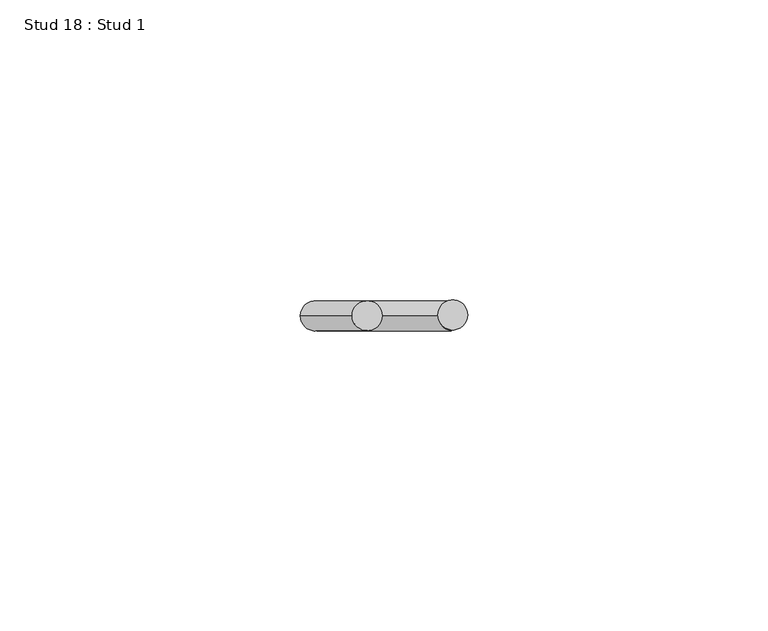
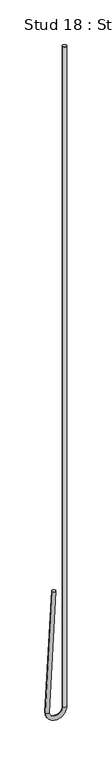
"""IFC4 building model written with IfcOpenShell, lengths in millimetres: proxy geometry, Stud 18 : Stud 1."""

from ifc_helpers import new_model, si_unit, point, frame, origin, place, context, project, spatial, circle_curve, ellipse_curve, trimmed, source, transform, mapped, element, save
from ifc_brep_helpers import plane_surface, cylinder_surface, revolved_surface, advanced_brep


def stud_18_stud_1_0962ca89(model_context):
    return source(origin(), model_context, "Body", "AdvancedBrep", [
        advanced_brep(
        [(-12209.2532788, 10839.5191481, 3640.800192), (-12204.2601311, 10839.5191481, 3640.5385122), (-12217.8939451, 10839.5191481, 3475.9264558), (-12212.9007975, 10839.5191481, 3475.664776), (-12194.9920812, 10839.5191481, 3475.7956159), (-12189.9920812, 10839.5191481, 3475.7956159), (-12189.9920812, 10839.5191481, 4390.1956159), (-12194.9920812, 10839.5191481, 4390.1956159)],
        [
            (0, 1, circle_curve(frame((-12206.7567049, 10839.5191481, 3640.6693521), z_axis=(0.05233595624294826, 0.0, 0.9986295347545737), x_axis=(0.9986295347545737, 0.0, -0.05233595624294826)), 2.5)),
            (1, 0, circle_curve(frame((-12206.7567049, 10839.5191481, 3640.6693521), z_axis=(0.05233595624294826, 0.0, 0.9986295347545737), x_axis=(0.9986295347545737, 0.0, -0.05233595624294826)), 2.5)),
            (0, 2),
            (2, 3, circle_curve(frame((-12215.3973713, 10839.5191481, 3475.7956159), z_axis=(0.05233595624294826, 0.0, 0.9986295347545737), x_axis=(0.9986295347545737, 0.0, -0.05233595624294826)), 2.5)),
            (3, 1),
            (3, 2, circle_curve(frame((-12215.3973713, 10839.5191481, 3475.7956159), z_axis=(0.05233595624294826, 0.0, 0.9986295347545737), x_axis=(0.9986295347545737, 0.0, -0.05233595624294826)), 2.5)),
            (4, 3, circle_curve(frame((-12203.9447263, 10839.5191481, 3475.7956159), z_axis=(0.0, 1.0, 0.0), x_axis=(-1.0, 0.0, 0.0)), 8.952645)),
            (2, 5, circle_curve(frame((-12203.9447263, 10839.5191481, 3475.7956159), z_axis=(0.0, -1.0, 0.0), x_axis=(-1.0, 0.0, 0.0)), 13.952645)),
            (5, 4, circle_curve(frame((-12192.4920812, 10839.5191481, 3475.7956159), z_axis=(0.0, 0.0, -1.0), x_axis=(-1.0, 0.0, 0.0)), 2.5)),
            (4, 5, circle_curve(frame((-12192.4920812, 10839.5191481, 3475.7956159), z_axis=(0.0, 0.0, -1.0), x_axis=(-1.0, 0.0, 0.0)), 2.5)),
            (6, 7, circle_curve(frame((-12192.4920812, 10839.5191481, 4390.1956159), z_axis=(0.0, 0.0, 1.0), x_axis=(-1.0, 0.0, 0.0)), 2.5)),
            (7, 6, circle_curve(frame((-12192.4920812, 10839.5191481, 4390.1956159), z_axis=(0.0, 0.0, 1.0), x_axis=(-1.0, 0.0, 0.0)), 2.5)),
            (5, 6),
            (7, 4),
        ],
        [
            plane_surface(frame((-12206.7567049, 11433.2441481, 3640.6693521), z_axis=(0.05233595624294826, 0.0, 0.9986295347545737), x_axis=(0.0, -1.0, 0.0))),
            cylinder_surface(frame((-12206.7567049, 10839.5191481, 3640.6693521), z_axis=(0.05233595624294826, 0.0, 0.9986295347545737), x_axis=(0.9986295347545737, 0.0, -0.05233595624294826)), 2.5),
            revolved_surface(trimmed(ellipse_curve(frame((-12215.3973713, 10839.5191481, 3475.7956159), z_axis=(0.0, 0.0, 1.0), x_axis=(1.0, 0.0, 0.0)), 2.5, 2.5), [point((-12217.8973713, 10839.5191481, 3475.7956159))], [point((-12212.8973713, 10839.5191481, 3475.7956159))], True, "CARTESIAN"), (-12203.9447263, 11433.2441481, 3475.7956159), (0.0, -1.0, 0.0)),
            revolved_surface(trimmed(ellipse_curve(frame((-12215.3973713, 10839.5191481, 3475.7956159), z_axis=(0.0, 0.0, 1.0), x_axis=(1.0, 0.0, 0.0)), 2.5, 2.5), [point((-12212.8973713, 10839.5191481, 3475.7956159))], [point((-12217.8973713, 10839.5191481, 3475.7956159))], True, "CARTESIAN"), (-12203.9447263, 11433.2441481, 3475.7956159), (0.0, -1.0, 0.0)),
            plane_surface(frame((-12192.4920812, 11433.2441481, 4390.1956159), z_axis=(0.0, 0.0, 1.0), x_axis=(0.0, -1.0, 0.0))),
            cylinder_surface(frame((-12192.4920812, 10839.5191481, 3475.7956159), z_axis=(0.0, 0.0, -1.0), x_axis=(-1.0, 0.0, 0.0)), 2.5),
        ],
        [
            (0, [[1, 2]]),
            (1, [[-1, 3, 4, 5]]),
            (1, [[-2, -5, 6, -3]]),
            (2, [[7, -4, 8, 9]]),
            (3, [[-8, -6, -7, 10]]),
            (4, [[11, 12]]),
            (5, [[-9, 13, -12, 14]]),
            (5, [[-10, -14, -11, -13]]),
        ],
    ),
    ])


if __name__ == "__main__":
    model = new_model("IFC4")
    model_context = context("Model", 3, world=origin())
    ifc_project = project(units=[si_unit("LENGTHUNIT", "METRE", prefix="MILLI")], contexts=[model_context])
    site = spatial("IfcSite", under=ifc_project)
    building = spatial("IfcBuilding", under=site)
    placement = place(None, origin())
    stud_18_stud_1_shape = stud_18_stud_1_0962ca89(model_context)
    element("IfcBuildingElementProxy", 1, Name="Stud 18 : Stud 1", ObjectType="Stud 18 : Stud 1", at=placement, inside=building, context=model_context, shape_type="MappedRepresentation", body=[
        mapped(stud_18_stud_1_shape, transform((0.0, 0.0, 0.0), x_axis=(1.0, 0.0, 0.0), y_axis=(0.0, 1.0, 0.0), z_axis=(0.0, 0.0, 1.0))),
    ])
    save(model, "model.ifc")
